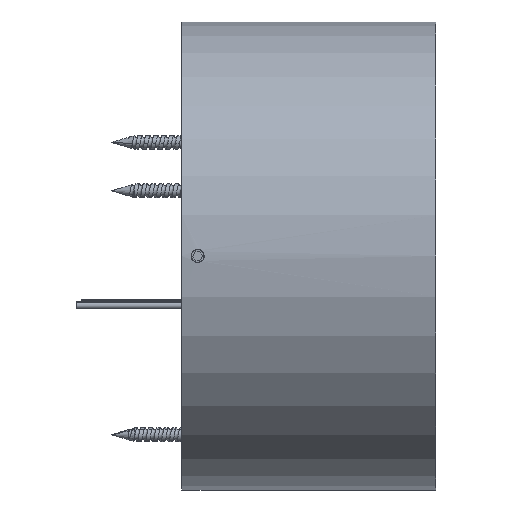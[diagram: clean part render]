
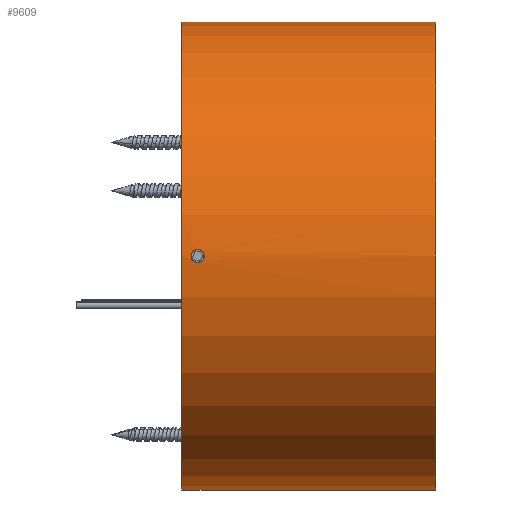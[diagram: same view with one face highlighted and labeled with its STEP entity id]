
A CAD part, left-side view. The second image highlights one B-rep face of the part: STEP entity #9609.
In plain terms, the highlighted cylindrical face has radius 59.5 mm (diameter 119 mm), a partial arc.
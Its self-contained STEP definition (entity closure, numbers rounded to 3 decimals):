
#2868 = CARTESIAN_POINT ( 'NONE',  ( -8.8, 0., 59.5 ) ) ;
#5349 = CARTESIAN_POINT ( 'NONE',  ( -68.028, -59.492, -0.976 ) ) ;
#5614 = CARTESIAN_POINT ( 'NONE',  ( -69.3, -59.478, 1.6 ) ) ;
#6154 = CARTESIAN_POINT ( 'NONE',  ( -68.315, -59.486, 1.278 ) ) ;
#6696 = ORIENTED_EDGE ( 'NONE', *, *, #18279, .F. ) ;
#9609 = ADVANCED_FACE ( 'NONE', ( #208936, #17531 ), #11696, .T. ) ;
#11207 = CARTESIAN_POINT ( 'NONE',  ( -69.714, -59.48, 1.549 ) ) ;
#11696 = CYLINDRICAL_SURFACE ( 'NONE', #219314, 59.5 ) ;
#11987 = CARTESIAN_POINT ( 'NONE',  ( -70.819, -59.498, -0.515 ) ) ;
#14785 = B_SPLINE_CURVE_WITH_KNOTS ( 'NONE', 3,
 ( #190140, #23187, #208766, #97673, #227429, #116386, #5349, #135028, #23980, #153668, #42592, #172277, #61248, #190938, #79840, #209587, #98474, #228235, #117177, #6154, #135844, #24773, #154491, #43390 ),
 .UNSPECIFIED., .F., .F.,
 ( 4, 2, 2, 2, 2, 2, 2, 2, 2, 2, 2, 4 ),
 ( 0.005, 0.006, 0.006, 0.007, 0.007, 0.007, 0.008, 0.008, 0.008, 0.009, 0.009, 0.01 ),
 .UNSPECIFIED. ) ;
#17388 = VERTEX_POINT ( 'NONE', #2868 ) ;
#17443 = CARTESIAN_POINT ( 'NONE',  ( -73.3, 0., 59.5 ) ) ;
#17531 = FACE_BOUND ( 'NONE', #76107, .T. ) ;
#17640 = EDGE_CURVE ( 'NONE', #17388, #39889, #227896, .T. ) ;
#18279 = EDGE_CURVE ( 'NONE', #175448, #39889, #212985, .T. ) ;
#18661 = VECTOR ( 'NONE', #164122, 1000. ) ;
#22899 = ORIENTED_EDGE ( 'NONE', *, *, #17640, .T. ) ;
#23187 = CARTESIAN_POINT ( 'NONE',  ( -69.091, -59.478, -1.6 ) ) ;
#23980 = CARTESIAN_POINT ( 'NONE',  ( -67.863, -59.496, -0.71 ) ) ;
#24773 = CARTESIAN_POINT ( 'NONE',  ( -68.879, -59.48, 1.558 ) ) ;
#29828 = CARTESIAN_POINT ( 'NONE',  ( -70.01, -59.483, 1.438 ) ) ;
#30271 = LINE ( 'NONE', #219218, #18661 ) ;
#30619 = VECTOR ( 'NONE', #106366, 1000. ) ;
#30632 = CARTESIAN_POINT ( 'NONE',  ( -70.688, -59.495, -0.802 ) ) ;
#34966 = CARTESIAN_POINT ( 'NONE',  ( -73.3, 0., -59.5 ) ) ;
#39889 = VERTEX_POINT ( 'NONE', #17443 ) ;
#42592 = CARTESIAN_POINT ( 'NONE',  ( -67.751, -59.499, -0.415 ) ) ;
#43390 = CARTESIAN_POINT ( 'NONE',  ( -69.3, -59.478, 1.6 ) ) ;
#48503 = CARTESIAN_POINT ( 'NONE',  ( -70.275, -59.486, 1.273 ) ) ;
#49292 = CARTESIAN_POINT ( 'NONE',  ( -70.506, -59.491, -1.056 ) ) ;
#52631 = CARTESIAN_POINT ( 'NONE',  ( -73.3, 0., 0. ) ) ;
#55022 = ORIENTED_EDGE ( 'NONE', *, *, #167519, .T. ) ;
#61248 = CARTESIAN_POINT ( 'NONE',  ( -67.7, -59.5, -0.107 ) ) ;
#66717 = VERTEX_POINT ( 'NONE', #132544 ) ;
#67068 = CARTESIAN_POINT ( 'NONE',  ( -70.579, -59.492, 0.984 ) ) ;
#67472 = B_SPLINE_CURVE_WITH_KNOTS ( 'NONE', 3,
 ( #214658, #103580, #122218, #11207, #140901, #29828, #159562, #48503, #178144, #67068, #196765, #85739, #215455, #104377, #234090, #123020, #11987, #141684, #30632, #160348, #49292, #178946, #67864, #197530, #86527, #216263, #105180, #234890 ),
 .UNSPECIFIED., .F., .F.,
 ( 4, 2, 2, 2, 2, 2, 2, 2, 2, 2, 2, 2, 2, 4 ),
 ( 0., 0., 0.001, 0.001, 0.001, 0.002, 0.003, 0.003, 0.003, 0.003, 0.004, 0.004, 0.005, 0.005 ),
 .UNSPECIFIED. ) ;
#67864 = CARTESIAN_POINT ( 'NONE',  ( -70.106, -59.484, -1.398 ) ) ;
#71171 = DIRECTION ( 'NONE',  ( 0., 0., 1. ) ) ;
#71186 = CARTESIAN_POINT ( 'NONE',  ( -69.3, -59.478, -1.6 ) ) ;
#72697 = VERTEX_POINT ( 'NONE', #71186 ) ;
#76107 = EDGE_LOOP ( 'NONE', ( #222442, #174771 ) ) ;
#79840 = CARTESIAN_POINT ( 'NONE',  ( -67.741, -59.499, 0.417 ) ) ;
#85739 = CARTESIAN_POINT ( 'NONE',  ( -70.858, -59.499, 0.42 ) ) ;
#86527 = CARTESIAN_POINT ( 'NONE',  ( -69.716, -59.48, -1.549 ) ) ;
#87747 = CARTESIAN_POINT ( 'NONE',  ( 0., 0., 59.5 ) ) ;
#88524 = VERTEX_POINT ( 'NONE', #5614 ) ;
#91852 = DIRECTION ( 'NONE',  ( -1., 0., 0. ) ) ;
#97673 = CARTESIAN_POINT ( 'NONE',  ( -68.496, -59.484, -1.399 ) ) ;
#98474 = CARTESIAN_POINT ( 'NONE',  ( -67.911, -59.495, 0.8 ) ) ;
#100584 = DIRECTION ( 'NONE',  ( 0., 0., 1. ) ) ;
#103580 = CARTESIAN_POINT ( 'NONE',  ( -69.406, -59.478, 1.6 ) ) ;
#104377 = CARTESIAN_POINT ( 'NONE',  ( -70.9, -59.5, -0.104 ) ) ;
#104673 = EDGE_CURVE ( 'NONE', #72697, #88524, #14785, .T. ) ;
#105180 = CARTESIAN_POINT ( 'NONE',  ( -69.404, -59.478, -1.6 ) ) ;
#106366 = DIRECTION ( 'NONE',  ( -1., 0., 0. ) ) ;
#116386 = CARTESIAN_POINT ( 'NONE',  ( -68.096, -59.491, -1.058 ) ) ;
#117177 = CARTESIAN_POINT ( 'NONE',  ( -68.094, -59.491, 1.057 ) ) ;
#122218 = CARTESIAN_POINT ( 'NONE',  ( -69.51, -59.479, 1.59 ) ) ;
#123020 = CARTESIAN_POINT ( 'NONE',  ( -70.849, -59.499, -0.415 ) ) ;
#132544 = CARTESIAN_POINT ( 'NONE',  ( -8.8, 0., -59.5 ) ) ;
#135028 = CARTESIAN_POINT ( 'NONE',  ( -67.912, -59.495, -0.802 ) ) ;
#135844 = CARTESIAN_POINT ( 'NONE',  ( -68.494, -59.484, 1.398 ) ) ;
#136335 = CARTESIAN_POINT ( 'NONE',  ( 0., 0., 0. ) ) ;
#136515 = EDGE_LOOP ( 'NONE', ( #140613, #55022, #22899, #6696 ) ) ;
#140613 = ORIENTED_EDGE ( 'NONE', *, *, #198608, .F. ) ;
#140901 = CARTESIAN_POINT ( 'NONE',  ( -69.816, -59.481, 1.518 ) ) ;
#141684 = CARTESIAN_POINT ( 'NONE',  ( -70.738, -59.496, -0.708 ) ) ;
#147210 = CIRCLE ( 'NONE', #194797, 59.5 ) ;
#153668 = CARTESIAN_POINT ( 'NONE',  ( -67.782, -59.498, -0.517 ) ) ;
#154491 = CARTESIAN_POINT ( 'NONE',  ( -69.089, -59.478, 1.6 ) ) ;
#159562 = CARTESIAN_POINT ( 'NONE',  ( -70.101, -59.484, 1.389 ) ) ;
#160348 = CARTESIAN_POINT ( 'NONE',  ( -70.572, -59.492, -0.976 ) ) ;
#164122 = DIRECTION ( 'NONE',  ( -1., 0., 0. ) ) ;
#167519 = EDGE_CURVE ( 'NONE', #66717, #17388, #147210, .T. ) ;
#172277 = CARTESIAN_POINT ( 'NONE',  ( -67.711, -59.5, -0.211 ) ) ;
#174771 = ORIENTED_EDGE ( 'NONE', *, *, #104673, .F. ) ;
#175448 = VERTEX_POINT ( 'NONE', #34966 ) ;
#178144 = CARTESIAN_POINT ( 'NONE',  ( -70.358, -59.488, 1.205 ) ) ;
#178946 = CARTESIAN_POINT ( 'NONE',  ( -70.282, -59.486, -1.281 ) ) ;
#182272 = DIRECTION ( 'NONE',  ( -1., 0., 0. ) ) ;
#188456 = AXIS2_PLACEMENT_3D ( 'NONE', #52631, #182272, #71171 ) ;
#190140 = CARTESIAN_POINT ( 'NONE',  ( -69.3, -59.478, -1.6 ) ) ;
#190938 = CARTESIAN_POINT ( 'NONE',  ( -67.7, -59.5, 0.21 ) ) ;
#194797 = AXIS2_PLACEMENT_3D ( 'NONE', #202905, #91852, #221579 ) ;
#196328 = EDGE_CURVE ( 'NONE', #88524, #72697, #67472, .T. ) ;
#196765 = CARTESIAN_POINT ( 'NONE',  ( -70.698, -59.495, 0.805 ) ) ;
#197530 = CARTESIAN_POINT ( 'NONE',  ( -69.815, -59.481, -1.518 ) ) ;
#198608 = EDGE_CURVE ( 'NONE', #66717, #175448, #30271, .T. ) ;
#202905 = CARTESIAN_POINT ( 'NONE',  ( -8.8, 0., 0. ) ) ;
#208766 = CARTESIAN_POINT ( 'NONE',  ( -68.881, -59.48, -1.558 ) ) ;
#208936 = FACE_OUTER_BOUND ( 'NONE', #136515, .T. ) ;
#209587 = CARTESIAN_POINT ( 'NONE',  ( -67.862, -59.496, 0.708 ) ) ;
#211648 = DIRECTION ( 'NONE',  ( -1., 0., 0. ) ) ;
#212985 = CIRCLE ( 'NONE', #188456, 59.5 ) ;
#214658 = CARTESIAN_POINT ( 'NONE',  ( -69.3, -59.478, 1.6 ) ) ;
#215455 = CARTESIAN_POINT ( 'NONE',  ( -70.9, -59.5, 0.209 ) ) ;
#216263 = CARTESIAN_POINT ( 'NONE',  ( -69.51, -59.479, -1.59 ) ) ;
#219218 = CARTESIAN_POINT ( 'NONE',  ( 0., 0., -59.5 ) ) ;
#219314 = AXIS2_PLACEMENT_3D ( 'NONE', #136335, #211648, #100584 ) ;
#221579 = DIRECTION ( 'NONE',  ( 0., 0., -1. ) ) ;
#222442 = ORIENTED_EDGE ( 'NONE', *, *, #196328, .F. ) ;
#227429 = CARTESIAN_POINT ( 'NONE',  ( -68.317, -59.486, -1.28 ) ) ;
#227896 = LINE ( 'NONE', #87747, #30619 ) ;
#228235 = CARTESIAN_POINT ( 'NONE',  ( -68.027, -59.492, 0.974 ) ) ;
#234090 = CARTESIAN_POINT ( 'NONE',  ( -70.89, -59.5, -0.21 ) ) ;
#234890 = CARTESIAN_POINT ( 'NONE',  ( -69.3, -59.478, -1.6 ) ) ;
